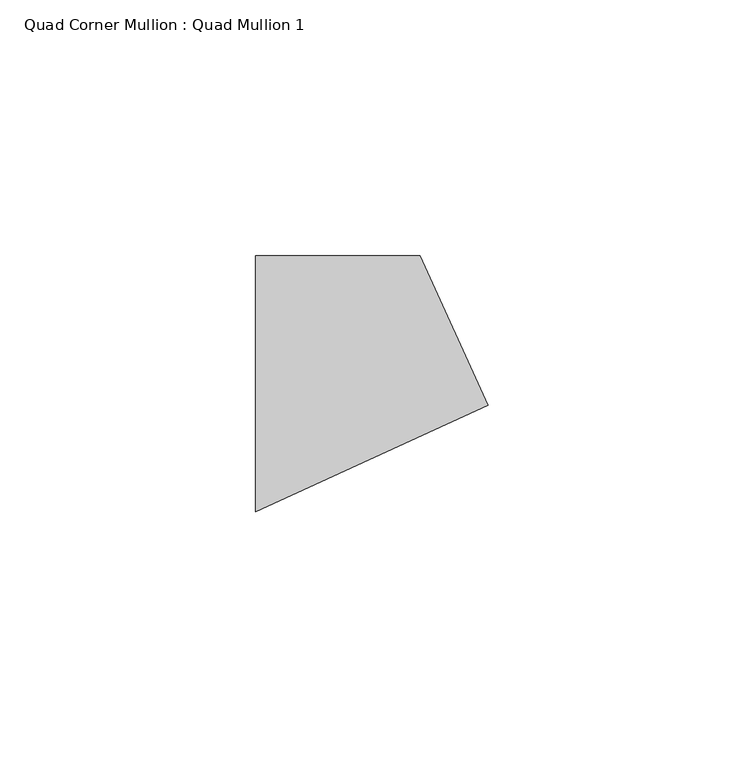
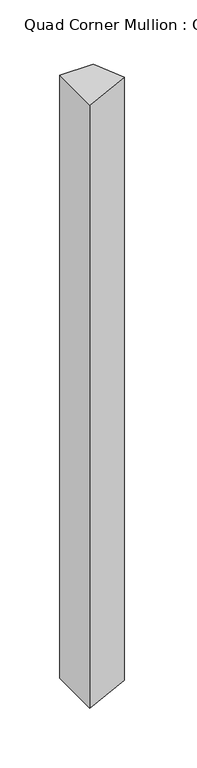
"""IFC4 building model written with IfcOpenShell, lengths in millimetres: member geometry, Quad Corner Mullion : Quad Mullion 1."""

from ifc_helpers import new_model, si_unit, frame, origin, place, context, project, spatial, polyline, outline, extrude, source, transform, mapped, element, save


def quad_corner_mullion_quad_mullion_1_c3b4b9a0(model_context):
    return source(origin(), model_context, "Body", "SweptSolid", [
        extrude(outline(polyline([(29.4125559, -4.1926582), (-16.0523154, -25.0), (-16.0523154, 25.0), (16.0523154, 25.0), (29.4125559, -4.1926582)])), frame((0.0, 0.0, -615.0), z_axis=(0.0, 0.0, 1.0), x_axis=(1.0, 0.0, 0.0)), (0.0, 0.0, 1.0), 615.0),
    ])


if __name__ == "__main__":
    model = new_model("IFC4")
    model_context = context("Model", 3, world=origin())
    ifc_project = project(units=[si_unit("LENGTHUNIT", "METRE", prefix="MILLI")], contexts=[model_context])
    site = spatial("IfcSite", under=ifc_project)
    building = spatial("IfcBuilding", under=site)
    placement = place(None, origin())
    quad_corner_mullion_quad_mullion_1_shape = quad_corner_mullion_quad_mullion_1_c3b4b9a0(model_context)
    element("IfcMember", 1, ObjectType="Quad Corner Mullion : Quad Mullion 1", at=placement, inside=building, context=model_context, shape_type="MappedRepresentation", body=[
        mapped(quad_corner_mullion_quad_mullion_1_shape, transform((0.0, 0.0, 0.0), x_axis=(1.0, 0.0, 0.0), y_axis=(0.0, 1.0, 0.0), z_axis=(0.0, 0.0, 1.0))),
    ])
    save(model, "model.ifc")
